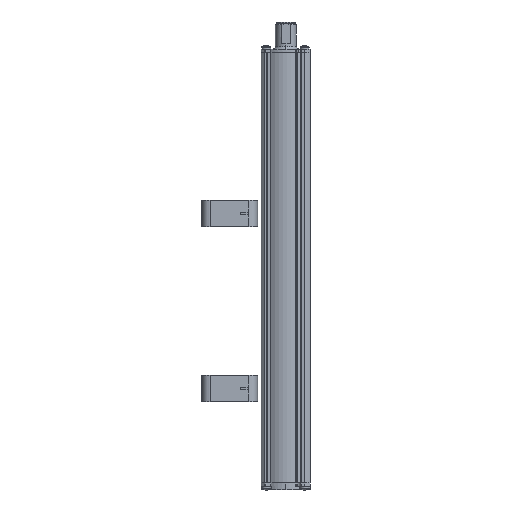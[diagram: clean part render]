
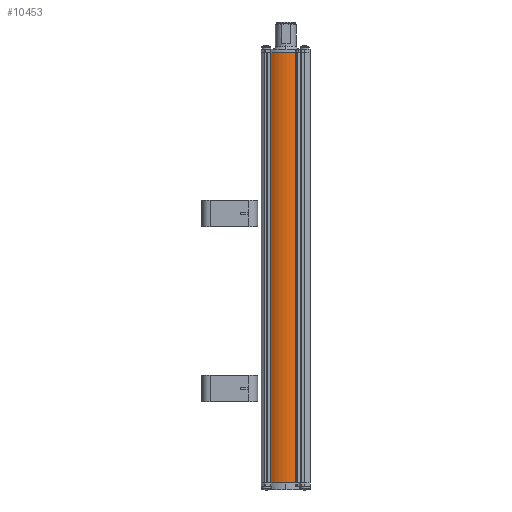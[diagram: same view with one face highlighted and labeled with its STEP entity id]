
A CAD part, left-side view. The second image highlights one B-rep face of the part: STEP entity #10453.
In plain terms, the highlighted cylindrical face has radius 15 mm (diameter 30 mm), a partial arc.
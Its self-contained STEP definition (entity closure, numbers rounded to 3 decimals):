
#536 = ORIENTED_EDGE ( 'NONE', *, *, #11502, .T. ) ;
#676 = VERTEX_POINT ( 'NONE', #7351 ) ;
#994 = CARTESIAN_POINT ( 'NONE',  ( 12.3, 8.585, 246. ) ) ;
#1181 = CYLINDRICAL_SURFACE ( 'NONE', #6552, 15. ) ;
#2541 = VECTOR ( 'NONE', #7927, 1000. ) ;
#3616 = DIRECTION ( 'NONE',  ( 0., 0., 1. ) ) ;
#3707 = FACE_OUTER_BOUND ( 'NONE', #9693, .T. ) ;
#4405 = DIRECTION ( 'NONE',  ( -1., 0., 0. ) ) ;
#4514 = CARTESIAN_POINT ( 'NONE',  ( 12.3, 8.585, 0. ) ) ;
#4522 = LINE ( 'NONE', #6886, #8050 ) ;
#5247 = ORIENTED_EDGE ( 'NONE', *, *, #13478, .F. ) ;
#6495 = VERTEX_POINT ( 'NONE', #4514 ) ;
#6552 = AXIS2_PLACEMENT_3D ( 'NONE', #16164, #9120, #10473 ) ;
#6886 = CARTESIAN_POINT ( 'NONE',  ( 13.951, -5.51, 246. ) ) ;
#6891 = EDGE_CURVE ( 'NONE', #8838, #6495, #8195, .T. ) ;
#7029 = VERTEX_POINT ( 'NONE', #17487 ) ;
#7208 = DIRECTION ( 'NONE',  ( 0., 0., 1. ) ) ;
#7351 = CARTESIAN_POINT ( 'NONE',  ( 13.951, -5.51, 246. ) ) ;
#7927 = DIRECTION ( 'NONE',  ( 0., 0., -1. ) ) ;
#8015 = CIRCLE ( 'NONE', #17800, 15. ) ;
#8050 = VECTOR ( 'NONE', #9857, 1000. ) ;
#8195 = CIRCLE ( 'NONE', #15419, 15. ) ;
#8838 = VERTEX_POINT ( 'NONE', #9252 ) ;
#9120 = DIRECTION ( 'NONE',  ( 0., 0., -1. ) ) ;
#9252 = CARTESIAN_POINT ( 'NONE',  ( 13.951, -5.51, 0. ) ) ;
#9658 = CARTESIAN_POINT ( 'NONE',  ( 0., 0., 246. ) ) ;
#9693 = EDGE_LOOP ( 'NONE', ( #13228, #5247, #14081, #536 ) ) ;
#9857 = DIRECTION ( 'NONE',  ( 0., 0., -1. ) ) ;
#10453 = ADVANCED_FACE ( 'NONE', ( #3707 ), #1181, .T. ) ;
#10473 = DIRECTION ( 'NONE',  ( -1., 0., 0. ) ) ;
#11502 = EDGE_CURVE ( 'NONE', #676, #8838, #4522, .T. ) ;
#13228 = ORIENTED_EDGE ( 'NONE', *, *, #6891, .T. ) ;
#13351 = EDGE_CURVE ( 'NONE', #676, #7029, #8015, .T. ) ;
#13478 = EDGE_CURVE ( 'NONE', #7029, #6495, #17493, .T. ) ;
#13984 = CARTESIAN_POINT ( 'NONE',  ( 0., 0., 0. ) ) ;
#14081 = ORIENTED_EDGE ( 'NONE', *, *, #13351, .F. ) ;
#14619 = DIRECTION ( 'NONE',  ( -1., 0., 0. ) ) ;
#15419 = AXIS2_PLACEMENT_3D ( 'NONE', #13984, #7208, #4405 ) ;
#16164 = CARTESIAN_POINT ( 'NONE',  ( 0., 0., 246. ) ) ;
#17487 = CARTESIAN_POINT ( 'NONE',  ( 12.3, 8.585, 246. ) ) ;
#17493 = LINE ( 'NONE', #994, #2541 ) ;
#17800 = AXIS2_PLACEMENT_3D ( 'NONE', #9658, #3616, #14619 ) ;
